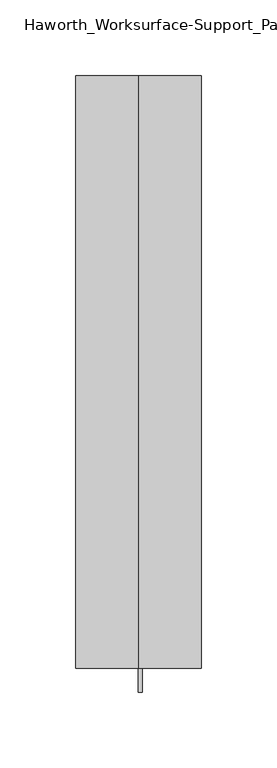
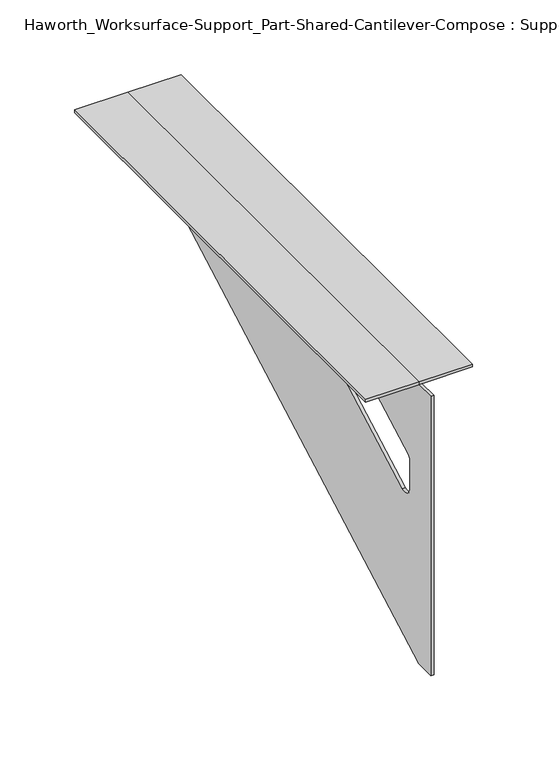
"""IFC4 building model written with IfcOpenShell, lengths in millimetres: furniture geometry, Haworth_Worksurface-Support_Part-Shared-Cantilever-Compose : Support."""

from ifc_helpers import new_model, si_unit, frame, origin, place, context, project, spatial, polyline, circle_curve, outline, extrude, source, transform, mapped, element, save
from ifc_brep_helpers import plane_surface, revolved_surface, advanced_brep


def haworth_worksurface_support_part_shared_cantilever_compose_4b8fdd10(model_context):
    return source(origin(), model_context, "Body", "SolidModel", [
        extrude(outline(polyline([(214.6839452, -165.3715234), (173.4089452, -165.3715234), (173.4089452, 225.1534766), (214.6839452, 225.1534766), (214.6839452, -165.3715234)])), frame((0.0, 0.0, 702.46875), z_axis=(0.0, 0.0, 1.0), x_axis=(1.0, 0.0, 0.0)), (0.0, 0.0, 1.0), 2.38125),
        advanced_brep(
        [(217.090625, -181.2465234, 473.86875), (217.090625, -165.3715234, 473.86875), (217.090625, 225.1534766, 690.1317568), (217.090625, 225.1534766, 702.46875), (217.090625, -165.3715234, 702.46875), (217.090625, -181.2465234, 702.46875), (217.090625, -97.9365954, 664.36875), (217.090625, -54.2820519, 664.36875), (217.090625, -51.6029469, 654.7830539), (217.090625, -143.3241408, 603.9901439), (217.090625, -152.6715234, 609.5881969), (217.090625, -152.6715234, 633.0985246), (217.090625, -150.919529, 635.9367776), (217.090625, -101.0128671, 663.5738425), (214.709375, -181.2465234, 473.86875), (214.709375, -181.2465234, 702.46875), (214.709375, -165.3715234, 702.46875), (214.709375, -165.3715234, 704.85), (214.709375, 225.1534766, 704.85), (214.709375, 225.1534766, 690.1317568), (214.709375, -165.3715234, 473.86875), (214.709375, -97.9365954, 664.36875), (214.709375, -101.0128671, 663.5738425), (214.709375, -150.919529, 635.9367776), (214.709375, -152.6715234, 633.0985246), (214.709375, -152.6715234, 609.5881969), (214.709375, -143.3241408, 603.9901439), (214.709375, -51.6029469, 654.7830539), (214.709375, -54.2820519, 664.36875), (255.984375, 225.1534766, 704.85), (255.984375, 225.1534766, 702.46875), (255.984375, -165.3715234, 702.46875), (255.984375, -165.3715234, 704.85)],
        [
            (0, 1),
            (1, 2),
            (2, 3),
            (3, 4),
            (4, 5),
            (5, 0),
            (6, 7),
            (7, 8, circle_curve(frame((217.090625, -54.2820519, 659.2015106), z_axis=(-1.0, 0.0, 0.0), x_axis=(0.0, 1.0, 0.0)), 5.1672394)),
            (8, 9),
            (9, 10, circle_curve(frame((217.090625, -146.3215234, 609.5881969), z_axis=(-1.0, 0.0, 0.0), x_axis=(0.0, 1.0, 0.0)), 6.35)),
            (10, 11),
            (11, 12, circle_curve(frame((217.090625, -149.4965234, 633.0985246), z_axis=(-1.0, 0.0, 0.0), x_axis=(0.0, 1.0, 0.0)), 3.175)),
            (12, 13),
            (13, 6, circle_curve(frame((217.090625, -97.9365954, 658.01875), z_axis=(-1.0, 0.0, 0.0), x_axis=(0.0, 1.0, 0.0)), 6.35)),
            (14, 15),
            (15, 16),
            (16, 17),
            (17, 18),
            (18, 19),
            (19, 20),
            (20, 14),
            (21, 22, circle_curve(frame((214.709375, -97.9365954, 658.01875), z_axis=(1.0, 0.0, 0.0), x_axis=(0.0, 1.0, 0.0)), 6.35)),
            (22, 23),
            (23, 24, circle_curve(frame((214.709375, -149.4965234, 633.0985246), z_axis=(1.0, 0.0, 0.0), x_axis=(0.0, 1.0, 0.0)), 3.175)),
            (24, 25),
            (25, 26, circle_curve(frame((214.709375, -146.3215234, 609.5881969), z_axis=(1.0, 0.0, 0.0), x_axis=(0.0, 1.0, 0.0)), 6.35)),
            (26, 27),
            (27, 28, circle_curve(frame((214.709375, -54.2820519, 659.2015106), z_axis=(1.0, 0.0, 0.0), x_axis=(0.0, 1.0, 0.0)), 5.1672394)),
            (28, 21),
            (4, 16),
            (15, 5),
            (14, 0),
            (20, 1),
            (19, 2),
            (18, 29),
            (29, 30),
            (30, 3),
            (6, 21),
            (28, 7),
            (9, 26),
            (25, 10),
            (24, 11),
            (23, 12),
            (27, 8),
            (31, 4),
            (30, 31),
            (32, 29),
            (17, 32),
            (31, 32),
            (22, 13),
        ],
        [
            plane_surface(frame((217.090625, -181.2465234, 473.86875), z_axis=(1.0, 0.0, 0.0), x_axis=(0.0, -1.0, 0.0))),
            plane_surface(frame((214.709375, -181.2465234, 473.86875), z_axis=(-1.0, 0.0, 0.0), x_axis=(0.0, 1.0, 0.0))),
            plane_surface(frame((214.709375, 225.1534766, 702.46875), z_axis=(0.0, 0.0, 1.0), x_axis=(1.0, 0.0, 0.0))),
            plane_surface(frame((214.709375, -181.2465234, 702.46875), z_axis=(0.0, -1.0, 0.0), x_axis=(1.0, 0.0, 0.0))),
            plane_surface(frame((214.709375, -181.2465234, 473.86875), z_axis=(0.0, 0.0, -1.0), x_axis=(1.0, 0.0, 0.0))),
            plane_surface(frame((214.709375, -165.3715234, 473.86875), z_axis=(0.0, 0.4844522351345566, -0.8748177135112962), x_axis=(1.0, 0.0, 0.0))),
            plane_surface(frame((214.709375, 225.1534766, 690.1317568), z_axis=(0.0, 1.0, 0.0), x_axis=(1.0, 0.0, 0.0))),
            plane_surface(frame((214.709375, -97.9365954, 664.36875), z_axis=(0.0, 0.0, -1.0), x_axis=(1.0, 0.0, 0.0))),
            revolved_surface(polyline([(217.090625, -139.9715234, 609.5881969), (214.709375, -139.9715234, 609.5881969)]), (214.709375, -146.3215234, 609.5881969), (1.0, 0.0, 0.0)),
            plane_surface(frame((214.709375, -152.6715234, 609.5881969), z_axis=(0.0, 1.0, 0.0), x_axis=(1.0, 0.0, 0.0))),
            revolved_surface(polyline([(217.090625, -146.3215234, 633.0985246), (214.709375, -146.3215234, 633.0985246)]), (214.709375, -149.4965234, 633.0985246), (1.0, 0.0, 0.0)),
            revolved_surface(polyline([(217.090625, -49.1148125, 659.2015106), (214.709375, -49.1148125, 659.2015106)]), (214.709375, -54.2820519, 659.2015106), (1.0, 0.0, 0.0)),
            plane_surface(frame((214.709375, -165.3715234, 702.46875), z_axis=(0.0, 0.0, -1.0), x_axis=(1.0, 0.0, 0.0))),
            plane_surface(frame((214.709375, -165.3715234, 704.85), z_axis=(0.0, 0.0, 1.0), x_axis=(-1.0, 0.0, 0.0))),
            plane_surface(frame((255.984375, -165.3715234, 704.85), z_axis=(0.0, -1.0, 0.0), x_axis=(0.0, 0.0, -1.0))),
            plane_surface(frame((255.984375, 225.1534766, 704.85), z_axis=(1.0, 0.0, 0.0), x_axis=(0.0, 0.0, -1.0))),
            plane_surface(frame((214.709375, -51.6029469, 654.7830539), z_axis=(0.0, -0.4844522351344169, 0.8748177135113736), x_axis=(1.0, 0.0, 0.0))),
            plane_surface(frame((214.709375, -150.919529, 635.9367776), z_axis=(0.0, 0.48445223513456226, -0.874817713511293), x_axis=(1.0, 0.0, 0.0))),
            revolved_surface(polyline([(217.090625, -91.58659540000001, 658.01875), (214.709375, -91.58659540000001, 658.01875)]), (214.709375, -97.9365954, 658.01875), (1.0, 0.0, 0.0)),
        ],
        [
            (0, [[1, 2, 3, 4, 5, 6], [7, 8, 9, 10, 11, 12, 13, 14]]),
            (1, [[15, 16, 17, 18, 19, 20, 21], [22, 23, 24, 25, 26, 27, 28, 29]]),
            (2, [[-5, 30, -16, 31]]),
            (3, [[-31, -15, 32, -6]]),
            (4, [[-32, -21, 33, -1]]),
            (5, [[-33, -20, 34, -2]]),
            (6, [[-34, -19, 35, 36, 37, -3]]),
            (7, [[38, -29, 39, -7]]),
            (8, [[40, -26, 41, -10]]),
            (9, [[-41, -25, 42, -11]]),
            (10, [[-42, -24, 43, -12]]),
            (11, [[-39, -28, 44, -8]]),
            (12, [[45, -4, -37, 46]]),
            (13, [[47, -35, -18, 48]]),
            (14, [[-17, -30, -45, 49, -48]]),
            (15, [[-36, -47, -49, -46]]),
            (16, [[-44, -27, -40, -9]]),
            (17, [[-43, -23, 50, -13]]),
            (18, [[-50, -22, -38, -14]]),
        ],
    ),
    ])


if __name__ == "__main__":
    model = new_model("IFC4")
    model_context = context("Model", 3, world=origin())
    ifc_project = project(units=[si_unit("LENGTHUNIT", "METRE", prefix="MILLI")], contexts=[model_context])
    site = spatial("IfcSite", under=ifc_project)
    building = spatial("IfcBuilding", under=site)
    placement = place(None, origin())
    haworth_worksurface_support_part_shared_cantilever_compose_shape = haworth_worksurface_support_part_shared_cantilever_compose_4b8fdd10(model_context)
    element("IfcFurniture", 1, ObjectType="Haworth_Worksurface-Support_Part-Shared-Cantilever-Compose : Support", at=placement, inside=building, context=model_context, shape_type="MappedRepresentation", body=[
        mapped(haworth_worksurface_support_part_shared_cantilever_compose_shape, transform((0.0, 0.0, 0.0), x_axis=(1.0, 0.0, 0.0), y_axis=(0.0, 1.0, 0.0), z_axis=(0.0, 0.0, 1.0))),
    ])
    save(model, "model.ifc")
